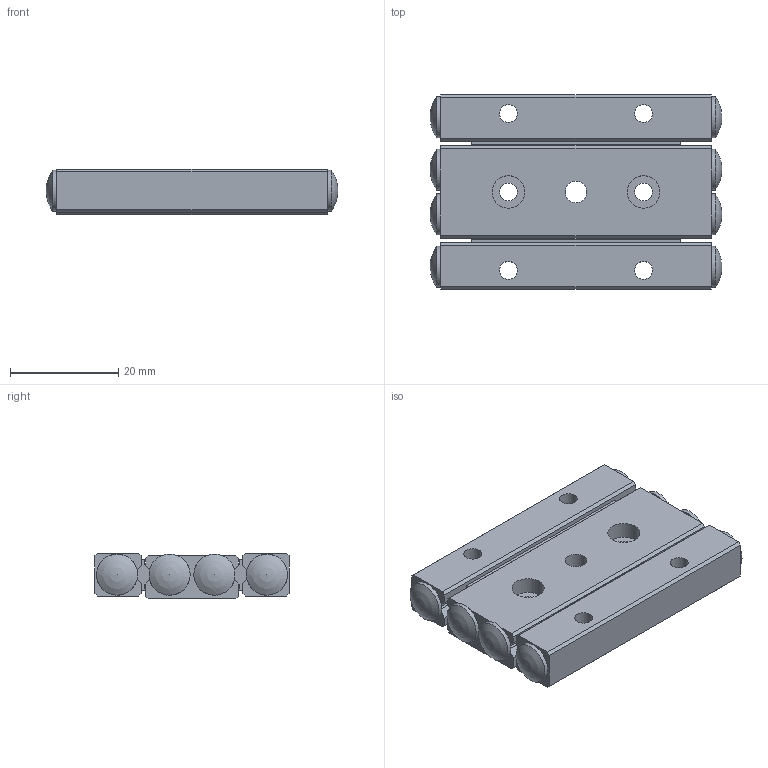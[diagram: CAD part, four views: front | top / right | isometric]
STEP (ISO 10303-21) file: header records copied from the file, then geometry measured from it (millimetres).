
FILE_DESCRIPTION(/* description */ ('STEP AP214'),/* implementation_level */ '2;1');
FILE_NAME(/* name */ 'VRG3WM-50Hx8Z(0)',/* time_stamp */ '2024-09-19T10:11:06+02:00',/* author */ ('License CC BY-ND 4.0'),/* organization */ ('CADENAS'),/* preprocessor_version */ 'ST-DEVELOPER v19.3',/* originating_system */ 'PARTsolutions',/* authorisation */ ' ');
FILE_SCHEMA (('AUTOMOTIVE_DESIGN {1 0 10303 214 3 1 1}'));
Length unit declared in the file: millimetre
Products named in the file (4): VRG3WM-50Hx8Z(0); VRG3VM-50*8Z-3; VRG3VM-50*8Z-1; VRG3VM-50*8Z-2
Assembly tree (5 placements, depth 2):
  VRG3WM-50Hx8Z(0)
    VRG3VM-50*8Z-3
    VRG3VM-50*8Z-1  x2
    VRG3VM-50*8Z-2  x2
Bounding box: 54 x 36 x 8.5 mm (x, y, z)
Volume: 13411.4 mm3; surface area: 8868.6 mm2
Topology: 5 solids, 5 shells, 425 faces, 1259 edges, 814 vertices
Faces by surface type: plane 300, cylinder 85, cone 32, sphere 8
Full cylindrical faces by diameter (mm): 2.98 x8, 3.3 x6, 4 x1, 6 x6, 7.6 x8
Entity records: 8593 total; most frequent: CARTESIAN_POINT 1385, DIRECTION 1252, ORIENTED_EDGE 1228, EDGE_CURVE 614, AXIS2_PLACEMENT_3D 435, VERTEX_POINT 408, LINE 382, VECTOR 382
